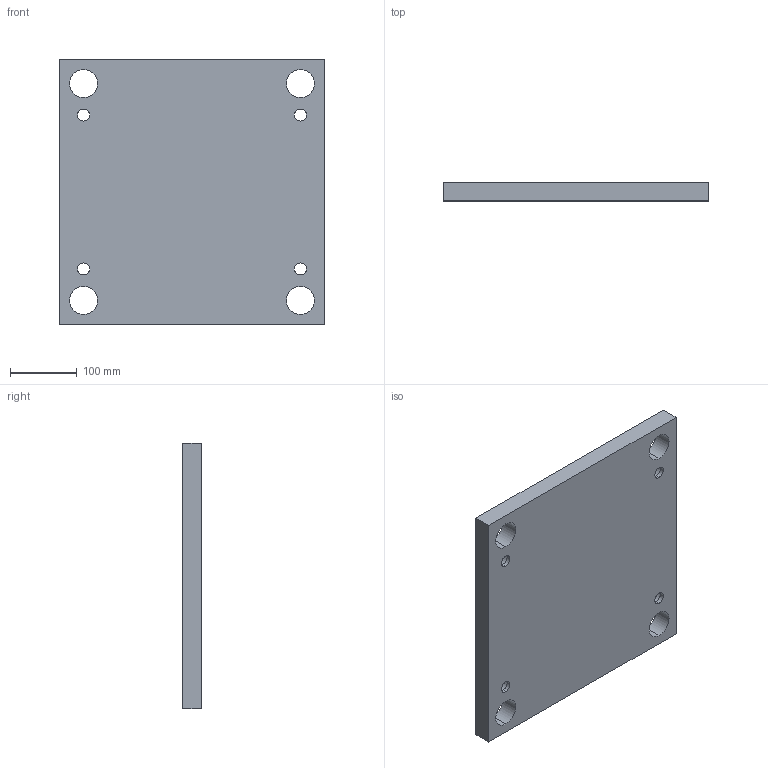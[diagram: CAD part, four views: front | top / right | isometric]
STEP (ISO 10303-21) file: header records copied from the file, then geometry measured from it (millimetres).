
FILE_DESCRIPTION (( 'STEP AP214' ), '1' );
FILE_NAME ('L30_396x396x027.STEP', '2018-10-05T18:06:36', ( '' ), ( '' ), 'SwSTEP 2.0', 'SolidWorks 2014', '' );
FILE_SCHEMA (( 'AUTOMOTIVE_DESIGN' ));
Length unit declared in the file: millimetre
Products named in the file (1): L30_396x396x027
Bounding box: 396 x 27 x 396 mm (x, y, z)
Volume: 4033698.9 mm3; surface area: 365749.4 mm2
Topology: 1 solids, 1 shells, 34 faces, 84 edges, 56 vertices
Faces by surface type: cylinder 24, plane 10
Entity records: 1102 total; most frequent: DIRECTION 202, CARTESIAN_POINT 175, ORIENTED_EDGE 168, EDGE_CURVE 84, AXIS2_PLACEMENT_3D 83, VERTEX_POINT 56, EDGE_LOOP 54, CIRCLE 48
